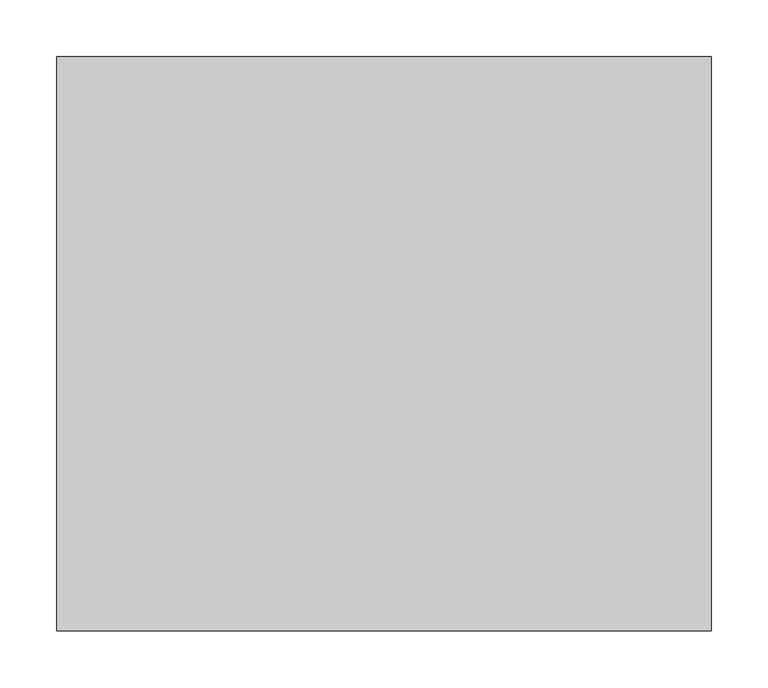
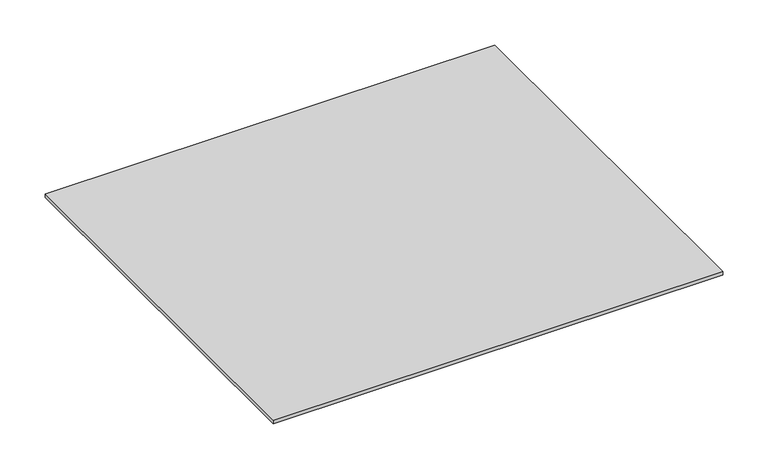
"""IFC4 building model written with IfcOpenShell, lengths in millimetres: furniture geometry, Cookertop : Cookertop."""

from ifc_helpers import new_model, si_unit, origin, origin_with_axes, place, context, project, spatial, polyline, outline, extrude, source, transform, mapped, element, save


def furniture_3aacc366(model_context):
    return source(origin(), model_context, "Body", "SweptSolid", [
        extrude(outline(polyline([(287.0, 252.0), (287.0, -252.0), (-287.0, -252.0), (-287.0, 252.0), (287.0, 252.0)])), origin_with_axes(), (0.0, 0.0, 1.0), 5.0),
    ])


if __name__ == "__main__":
    model = new_model("IFC4")
    model_context = context("Model", 3, world=origin())
    ifc_project = project(units=[si_unit("LENGTHUNIT", "METRE", prefix="MILLI")], contexts=[model_context])
    site = spatial("IfcSite", under=ifc_project)
    building = spatial("IfcBuilding", under=site)
    placement = place(None, origin())
    furniture_shape = furniture_3aacc366(model_context)
    element("IfcFurniture", 1, ObjectType="Cookertop : Cookertop", at=placement, inside=building, context=model_context, shape_type="MappedRepresentation", body=[
        mapped(furniture_shape, transform((0.0, 0.0, 0.0), x_axis=(1.0, 0.0, 0.0), y_axis=(0.0, 1.0, 0.0), z_axis=(0.0, 0.0, 1.0))),
    ])
    save(model, "model.ifc")
